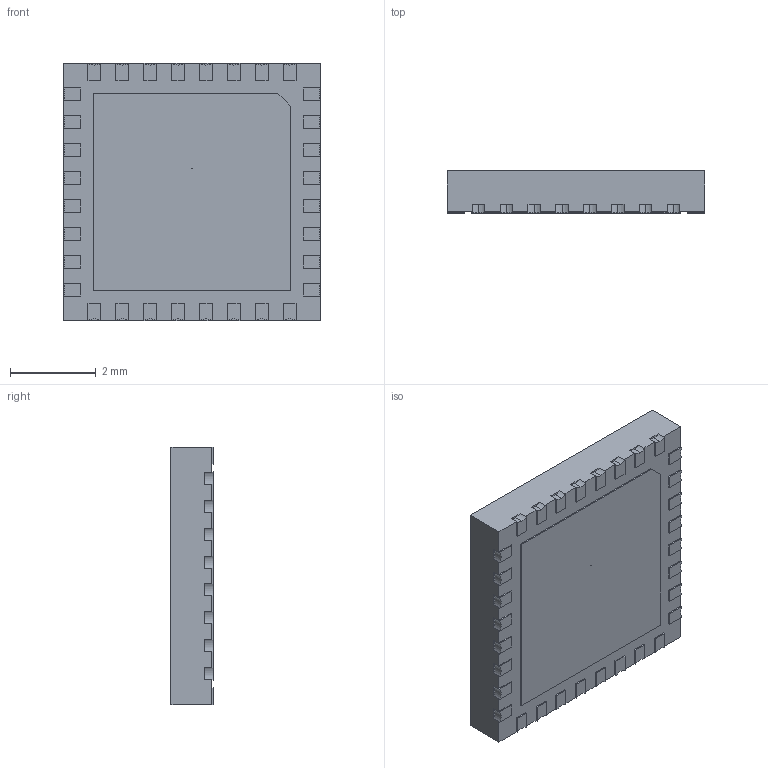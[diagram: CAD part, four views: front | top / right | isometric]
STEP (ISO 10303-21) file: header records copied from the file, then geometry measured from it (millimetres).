
FILE_DESCRIPTION (( 'STEP AP203' ), '1' );
FILE_NAME ('ICAM4096-QFN32-6x6.STEP', '2019-12-19T11:29:58', ( '' ), ( '' ), 'SwSTEP 2.0', 'SolidWorks 2016', '' );
FILE_SCHEMA (( 'CONFIG_CONTROL_DESIGN' ));
Length unit declared in the file: millimetre
Products named in the file (1): ICAM4096-QFN32-6x6
Bounding box: 6 x 0.98 x 6 mm (x, y, z)
Volume: 34.9 mm3; surface area: 96.8 mm2
Topology: 1 solids, 1 shells, 218 faces, 639 edges, 426 vertices
Faces by surface type: plane 174, cylinder 44
Entity records: 7248 total; most frequent: CARTESIAN_POINT 1284, ORIENTED_EDGE 1278, DIRECTION 1165, EDGE_CURVE 639, LINE 551, VECTOR 551, VERTEX_POINT 426, AXIS2_PLACEMENT_3D 307
